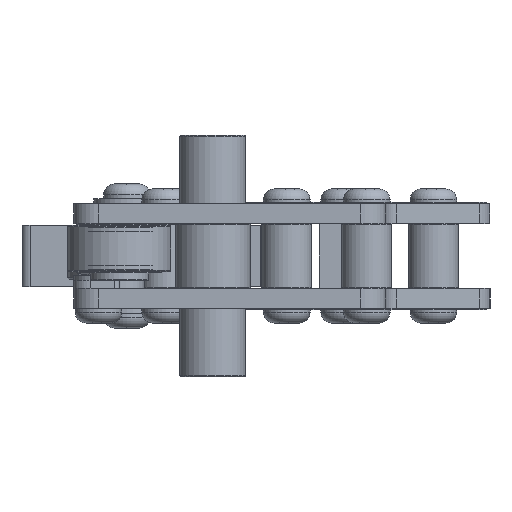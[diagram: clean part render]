
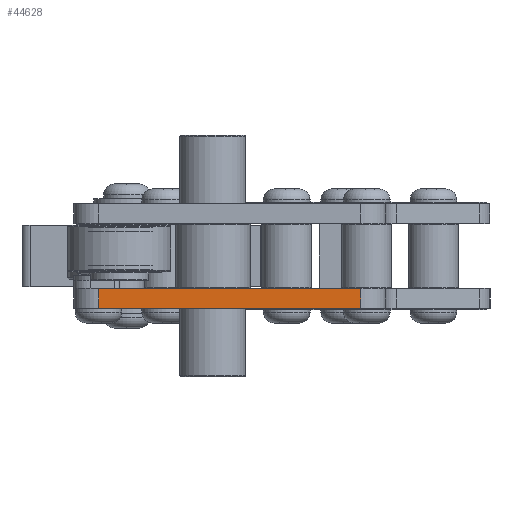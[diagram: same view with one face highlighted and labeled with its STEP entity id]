
A CAD part, left-side view. The second image highlights one B-rep face of the part: STEP entity #44628.
In plain terms, the highlighted planar face has unit normal (-1, 0, 0).
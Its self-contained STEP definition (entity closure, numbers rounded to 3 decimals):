
#4301=PLANE('',#47202);
#5782=LINE('',#58623,#10272);
#5923=LINE('',#59160,#10413);
#5924=LINE('',#59163,#10414);
#5925=LINE('',#59164,#10415);
#10272=VECTOR('',#49401,157.5);
#10413=VECTOR('',#49946,12.);
#10414=VECTOR('',#49949,12.);
#10415=VECTOR('',#49950,157.5);
#15339=FACE_OUTER_BOUND('',#17816,.T.);
#17816=EDGE_LOOP('',(#32097,#32098,#32099,#32100));
#21095=VERTEX_POINT('',#58620);
#21096=VERTEX_POINT('',#58622);
#21290=VERTEX_POINT('',#59158);
#21291=VERTEX_POINT('',#59162);
#25375=EDGE_CURVE('',#21096,#21095,#5782,.T.);
#25633=EDGE_CURVE('',#21096,#21290,#5923,.T.);
#25634=EDGE_CURVE('',#21291,#21095,#5924,.T.);
#25635=EDGE_CURVE('',#21290,#21291,#5925,.T.);
#32097=ORIENTED_EDGE('',*,*,#25633,.F.);
#32098=ORIENTED_EDGE('',*,*,#25375,.T.);
#32099=ORIENTED_EDGE('',*,*,#25634,.F.);
#32100=ORIENTED_EDGE('',*,*,#25635,.F.);
#44628=ADVANCED_FACE('',(#15339),#4301,.T.);
#47202=AXIS2_PLACEMENT_3D('',#59161,#49947,#49948);
#49401=DIRECTION('',(0.,-1.,0.));
#49946=DIRECTION('',(0.,0.,1.));
#49947=DIRECTION('center_axis',(-1.,0.,0.));
#49948=DIRECTION('ref_axis',(0.,-1.,0.));
#49949=DIRECTION('',(0.,0.,-1.));
#49950=DIRECTION('',(0.,-1.,0.));
#58620=CARTESIAN_POINT('',(0.,15.,0.));
#58622=CARTESIAN_POINT('',(0.,172.5,0.));
#58623=CARTESIAN_POINT('',(0.,187.5,0.));
#59158=CARTESIAN_POINT('',(0.,172.5,12.));
#59160=CARTESIAN_POINT('',(0.,172.5,0.));
#59161=CARTESIAN_POINT('Origin',(0.,187.5,0.));
#59162=CARTESIAN_POINT('',(0.,15.,12.));
#59163=CARTESIAN_POINT('',(0.,15.,0.));
#59164=CARTESIAN_POINT('',(0.,187.5,12.));
